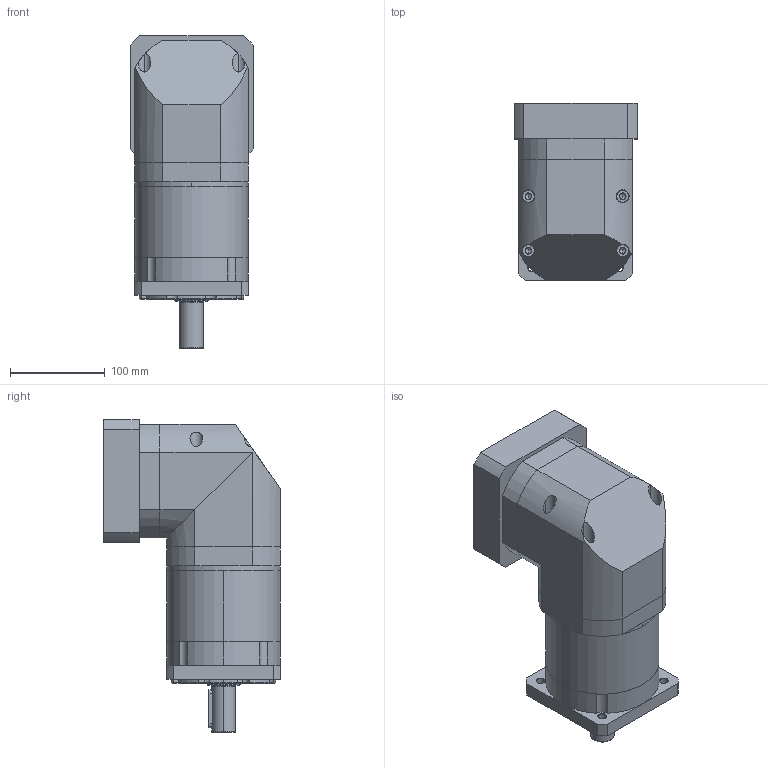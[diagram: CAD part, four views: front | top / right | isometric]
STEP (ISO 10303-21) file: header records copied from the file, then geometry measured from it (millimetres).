
FILE_DESCRIPTION (( 'STEP AP203' ), '1' );
FILE_NAME ('LSFR120-(L2)-S2-P2-110145M8.STEP', '2024-11-14T09:41:09', ( '微软用户' ), ( '微软中国' ), 'SwSTEP 2.0', 'SolidWorks 2022', '' );
FILE_SCHEMA (( 'CONFIG_CONTROL_DESIGN' ));
Length unit declared in the file: millimetre
Products named in the file (1): LSFR120-(L2)-S2-P2-110145M8
Bounding box: 131 x 186.75 x 330.5 mm (x, y, z)
Volume: 3974306.5 mm3; surface area: 374588.5 mm2
Topology: 23 solids, 23 shells, 831 faces, 1818 edges, 1044 vertices
Faces by surface type: plane 334, cylinder 246, cone 211, torus 40
Entity records: 23691 total; most frequent: CARTESIAN_POINT 5408, DIRECTION 4089, ORIENTED_EDGE 3544, EDGE_CURVE 1772, AXIS2_PLACEMENT_3D 1668, VERTEX_POINT 1044, EDGE_LOOP 934, CIRCLE 836
